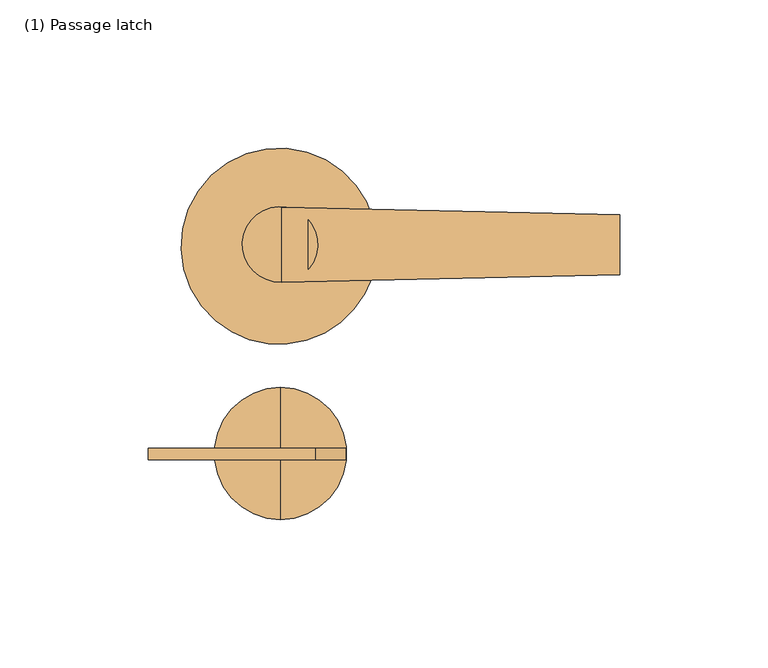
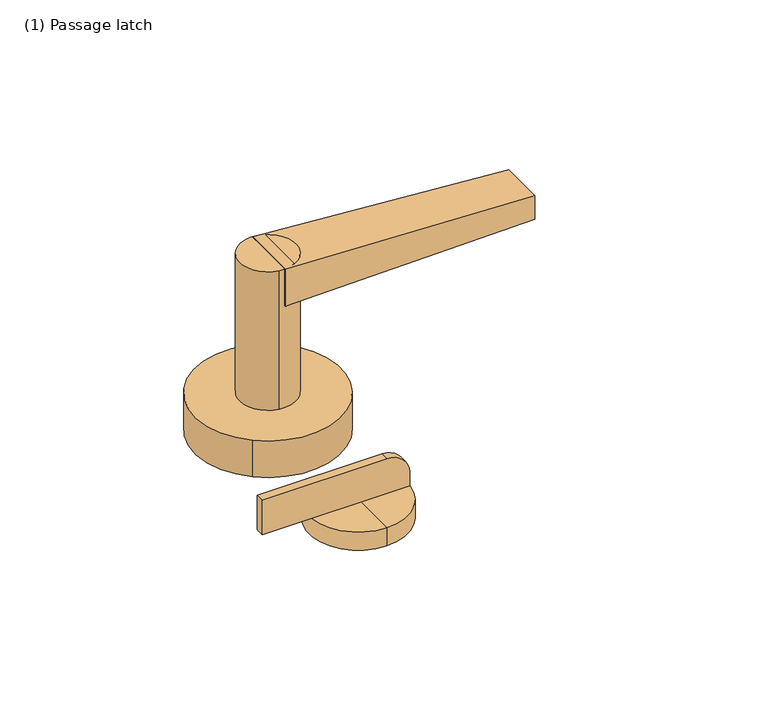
"""IFC4 building model written with IfcOpenShell, lengths in millimetres: door geometry, Door_Handle-Teknion-FHHSL-Schlage L Series(Child) : (1) Passage latch."""

import ifcopenshell
import ifcopenshell.guid

model = None  # the IFC model being written
_history = None  # IfcOwnerHistory: only IFC2X3 demands one
_inside = {}  # id of a spatial element -> (the spatial element, [elements in it])
_under = {}  # id of a project, library or spatial element -> (it, [spatial elements below it])
_declared = {}  # id of a project -> (the project, [libraries it declares])
_typed = {}  # id of a type object -> (the type object, [elements of that type])
_made_of = {}  # id of a material, layer set ... -> (it, [elements and type objects made of it])


def new_model(schema):
    """Start an empty IFC model of exactly this schema.

    Asked for "IFC4X3", IfcOpenShell would pick the latest addendum, in which some entities
    have other attributes; the version numbers below select the first issue.
    IFC2X3 requires an IfcOwnerHistory on every rooted entity: one is made here for all.
    """
    global model, _history
    if schema == "IFC4X3":
        model = ifcopenshell.file(schema_version=(4, 3, 0, 0))
    else:
        model = ifcopenshell.file(schema=schema)
    _inside.clear()
    _under.clear()
    _declared.clear()
    _typed.clear()
    _made_of.clear()
    _history = None
    if model.schema == "IFC2X3":
        org = make("IfcOrganization", Name="unknown")
        user = make(
            "IfcPersonAndOrganization",
            ThePerson=make("IfcPerson", FamilyName="unknown"),
            TheOrganization=org,
        )
        app = make(
            "IfcApplication",
            ApplicationDeveloper=org,
            Version="unknown",
            ApplicationFullName="unknown",
            ApplicationIdentifier="unknown",
        )
        _history = make(
            "IfcOwnerHistory",
            OwningUser=user,
            OwningApplication=app,
            ChangeAction="ADDED",
            CreationDate=0,
        )
    return model


def make(cls, **values):
    """One entity of the class cls with the attributes given. An attribute that is None is left unset."""
    return model.create_entity(
        cls, **{name: value for name, value in values.items() if value is not None}
    )


def rooted(cls, **values):
    """An entity with a GlobalId (a new one), such as an element, a storey or a relation."""
    return make(cls, GlobalId=ifcopenshell.guid.new(), OwnerHistory=_history, **values)


def si_unit(unit_type, name, prefix=None):
    """IfcSIUnit, for example si_unit("LENGTHUNIT", "METRE", prefix="MILLI")."""
    return make("IfcSIUnit", UnitType=unit_type, Prefix=prefix, Name=name)


def assignment(units):
    """IfcUnitAssignment: the units of a project."""
    return None if units is None else make("IfcUnitAssignment", Units=units)


def point(xyz):
    """IfcCartesianPoint."""
    return None if xyz is None else make("IfcCartesianPoint", Coordinates=xyz)


def direction(xyz):
    """IfcDirection."""
    return None if xyz is None else make("IfcDirection", DirectionRatios=xyz)


def frame(location, z_axis=None, x_axis=None):
    """IfcAxis2Placement3D, a coordinate frame: its origin and axes. An axis left out is left unset."""
    return make(
        "IfcAxis2Placement3D",
        Location=point(location),
        Axis=direction(z_axis),
        RefDirection=direction(x_axis),
    )


def frame_2d(location, x_axis=None):
    """IfcAxis2Placement2D, a coordinate frame in the plane: its origin and x axis."""
    return make(
        "IfcAxis2Placement2D", Location=point(location), RefDirection=direction(x_axis)
    )


def origin():
    """The frame at (0, 0, 0) with its axes left unset."""
    return frame((0.0, 0.0, 0.0))


def origin_with_axes():
    """The frame at (0, 0, 0) with the z axis (0, 0, 1) and the x axis (1, 0, 0) written out."""
    return frame((0.0, 0.0, 0.0), z_axis=(0.0, 0.0, 1.0), x_axis=(1.0, 0.0, 0.0))


def place(relative_to, where):
    """IfcLocalPlacement: puts the frame where relative to a parent placement (None: the world)."""
    return make(
        "IfcLocalPlacement", PlacementRelTo=relative_to, RelativePlacement=where
    )


def context(
    kind, dimensions, precision=None, world=None, true_north=None, identifier=None
):
    """IfcGeometricRepresentationContext, for example the 3D "Model" context."""
    return make(
        "IfcGeometricRepresentationContext",
        ContextIdentifier=identifier,
        ContextType=kind,
        CoordinateSpaceDimension=dimensions,
        Precision=precision,
        WorldCoordinateSystem=world,
        TrueNorth=true_north,
    )


def project(units=None, contexts=None):
    """IfcProject with its units and contexts."""
    return rooted(
        "IfcProject",
        Name="project",
        RepresentationContexts=contexts,
        UnitsInContext=assignment(units),
    )


def spatial(cls, under=None, at=None, **own):
    """A site, building, storey or space (cls), placed at a placement, below another one or the project."""
    s = rooted(cls, ObjectPlacement=at, **own)
    if under is not None:
        _under.setdefault(under.id(), (under, []))[1].append(s)
    return s


def polyline(points):
    """IfcPolyline through the points."""
    return make("IfcPolyline", Points=[point(p) for p in points])


def circle_curve(where, radius):
    """IfcCircle in the frame where."""
    return make("IfcCircle", Position=where, Radius=radius)


def trimmed(basis, trim1, trim2, sense, master):
    """IfcTrimmedCurve: the piece of a basis curve between two trims."""
    return make(
        "IfcTrimmedCurve",
        BasisCurve=basis,
        Trim1=trim1,
        Trim2=trim2,
        SenseAgreement=sense,
        MasterRepresentation=master,
    )


def segment(curve, same_sense, transition):
    """IfcCompositeCurveSegment."""
    return make(
        "IfcCompositeCurveSegment",
        Transition=transition,
        SameSense=same_sense,
        ParentCurve=curve,
    )


def composite_curve(segments, self_intersect=None):
    """IfcCompositeCurve: segments joined end to end."""
    return make("IfcCompositeCurve", Segments=segments, SelfIntersect=self_intersect)


def outline(outer, holes=None, kind="AREA"):
    """IfcArbitraryClosedProfileDef: a profile drawn as a closed curve; with holes, ...WithVoids."""
    if holes is None:
        return make("IfcArbitraryClosedProfileDef", ProfileType=kind, OuterCurve=outer)
    return make(
        "IfcArbitraryProfileDefWithVoids",
        ProfileType=kind,
        OuterCurve=outer,
        InnerCurves=holes,
    )


def extrude(swept, where, along, depth):
    """IfcExtrudedAreaSolid: the profile swept, set in the frame where, extruded along a direction by depth."""
    return make(
        "IfcExtrudedAreaSolid",
        SweptArea=swept,
        Position=where,
        ExtrudedDirection=direction(along),
        Depth=depth,
    )


def shape(context_of_items, identifier, shape_type, items):
    """IfcShapeRepresentation: the items that make up one representation, for example the "Body"."""
    return make(
        "IfcShapeRepresentation",
        ContextOfItems=context_of_items,
        RepresentationIdentifier=identifier,
        RepresentationType=shape_type,
        Items=items,
    )


def source(mapping_origin, context_of_items, identifier, shape_type, items):
    """IfcRepresentationMap: a shape defined once, which mapped items show again and again."""
    return make(
        "IfcRepresentationMap",
        MappingOrigin=mapping_origin,
        MappedRepresentation=shape(context_of_items, identifier, shape_type, items),
    )


def transform(
    local_origin,
    x_axis=None,
    y_axis=None,
    z_axis=None,
    scale=None,
    scale2=None,
    scale3=None,
    uniform=True,
):
    """IfcCartesianTransformationOperator3D, or its non-uniform kind. x_axis, y_axis, z_axis: its Axis1, 2, 3."""
    if uniform:
        return make(
            "IfcCartesianTransformationOperator3D",
            Axis1=direction(x_axis),
            Axis2=direction(y_axis),
            LocalOrigin=point(local_origin),
            Scale=scale,
            Axis3=direction(z_axis),
        )
    return make(
        "IfcCartesianTransformationOperator3DnonUniform",
        Axis1=direction(x_axis),
        Axis2=direction(y_axis),
        LocalOrigin=point(local_origin),
        Scale=scale,
        Axis3=direction(z_axis),
        Scale2=scale2,
        Scale3=scale3,
    )


def mapped(mapping_source, mapping_target):
    """IfcMappedItem: shows the shape of a source again, moved by a transform."""
    return make(
        "IfcMappedItem", MappingSource=mapping_source, MappingTarget=mapping_target
    )


def made_of(thing, what):
    """Note that an element or type object is made of a material, layer set ...; save() writes the relation."""
    if what is not None:
        _made_of.setdefault(what.id(), (what, []))[1].append(thing)
    return thing


def element(
    cls,
    number,
    at=None,
    inside=None,
    cuts=None,
    type_object=None,
    material=None,
    context=None,
    identifier="Body",
    shape_type=None,
    held_by="IfcProductDefinitionShape",
    body=None,
    shapes=None,
    **own,
):
    """One element of the class cls, such as IfcWall. Its Tag is "e" and its number.

    at: its placement. inside: the storey or other place that contains it. cuts: it is an
    opening in that element (IfcRelVoidsElement). A single representation is given by context,
    identifier, shape_type and body (its items); several are given by shapes. held_by: the class
    of the entity that holds the representations. save() writes the other relations.
    """
    e = rooted(cls, Tag="e%d" % number, ObjectPlacement=at, **own)
    if body is not None:
        shapes = [shape(context, identifier, shape_type, body)]
    if shapes is not None:
        e.Representation = make(held_by, Representations=shapes)
    if inside is not None:
        _inside.setdefault(inside.id(), (inside, []))[1].append(e)
    if cuts is not None:
        rooted(
            "IfcRelVoidsElement", RelatingBuildingElement=cuts, RelatedOpeningElement=e
        )
    if type_object is not None:
        _typed.setdefault(type_object.id(), (type_object, []))[1].append(e)
    return made_of(e, material)


def aggregate(whole, parts):
    """IfcRelAggregates: a whole, such as a stair, and the parts it consists of."""
    return rooted("IfcRelAggregates", RelatingObject=whole, RelatedObjects=parts)


def save(model, path):
    """Write the relations noted so far, then the file.

    IfcRelAggregates (storeys below a building ...), IfcRelContainedInSpatialStructure (elements
    in a storey), IfcRelDefinesByType, IfcRelAssociatesMaterial and IfcRelDeclares: one each for
    every whole, place, type object, material and project.
    """
    for whole, parts in _under.values():
        aggregate(whole, parts)
    for where, things in _inside.values():
        rooted(
            "IfcRelContainedInSpatialStructure",
            RelatedElements=things,
            RelatingStructure=where,
        )
    for kind, things in _typed.values():
        rooted("IfcRelDefinesByType", RelatedObjects=things, RelatingType=kind)
    for what, things in _made_of.values():
        rooted("IfcRelAssociatesMaterial", RelatedObjects=things, RelatingMaterial=what)
    for by, libraries in _declared.values():
        rooted("IfcRelDeclares", RelatingContext=by, RelatedDefinitions=libraries)
    model.write(path)


def plane_surface(at):
    """IfcPlane: the flat surface through the origin of the frame at, square to its z axis."""
    return make("IfcPlane", Position=at)


def cylinder_surface(at, radius):
    """IfcCylindricalSurface: all points at the distance radius from the z axis of the frame at."""
    return make("IfcCylindricalSurface", Position=at, Radius=radius)


def spline_surface(u_degree, v_degree, points, u_multiplicities, v_multiplicities, u_knots, v_knots, weights=None):
    """IfcBSplineSurfaceWithKnots; with weights, IfcRationalBSplineSurfaceWithKnots. points: one row for each step in u."""
    own = dict(
        UDegree=u_degree,
        VDegree=v_degree,
        ControlPointsList=[[point(p) for p in row] for row in points],
        SurfaceForm="UNSPECIFIED",
        UClosed=False,
        VClosed=False,
        SelfIntersect=False,
        UMultiplicities=u_multiplicities,
        VMultiplicities=v_multiplicities,
        UKnots=u_knots,
        VKnots=v_knots,
        KnotSpec="UNSPECIFIED",
    )
    if weights is None:
        return make("IfcBSplineSurfaceWithKnots", **own)
    return make("IfcRationalBSplineSurfaceWithKnots", WeightsData=weights, **own)


def advanced_brep(points, edges, surfaces, faces):
    """IfcAdvancedBrep: a solid bounded by faces that lie on surfaces and meet in shared edges.

    An edge is (start, end): straight between two places in points (the first is 0);
    or (start, end, curve); or (start, end, curve, False) where it runs against its curve.
    A face is (place in surfaces, loops), or (place, loops, False) where it looks against
    its surface's normal. A loop lists edges by number (the first is 1), with a minus sign
    where the edge is run from its end to its start. The first loop is the outer one.
    """
    corners = [point(p) for p in points]
    vertices = [make("IfcVertexPoint", VertexGeometry=c) for c in corners]
    made = []
    for start, end, *more in edges:
        made.append(
            make(
                "IfcEdgeCurve",
                EdgeStart=vertices[start],
                EdgeEnd=vertices[end],
                EdgeGeometry=more[0] if more else make("IfcPolyline", Points=[corners[start], corners[end]]),
                SameSense=more[1] if len(more) > 1 else True,
            )
        )
    hull = []
    for where, loops, *sense in faces:
        bounds = []
        for j, loop in enumerate(loops):
            ring = [make("IfcOrientedEdge", EdgeElement=made[abs(k) - 1], Orientation=k > 0) for k in loop]
            bounds.append(
                make(
                    "IfcFaceOuterBound" if j == 0 else "IfcFaceBound",
                    Bound=make("IfcEdgeLoop", EdgeList=ring),
                    Orientation=True,
                )
            )
        hull.append(make("IfcAdvancedFace", Bounds=bounds, FaceSurface=surfaces[where], SameSense=sense[0] if sense else True))
    return make("IfcAdvancedBrep", Outer=make("IfcClosedShell", CfsFaces=hull))


def door_1_passage_latch_fcdd1c10(model_context):
    return source(origin(), model_context, "Body", "SolidModel", [
        advanced_brep(
        [(113.0826159, 9.8661661, 77.089), (113.0826159, -10.4783486, 77.089), (113.0826159, -10.4783486, 65.659), (113.0826159, 9.8661661, 65.659), (-0.79375, 12.3783123, 83.439), (-0.79375, 12.378509, 65.659), (-0.79375, -13.0089229, 65.659), (-0.79375, -13.0118705, 83.439)],
        [
            (0, 1),
            (1, 2),
            (2, 3),
            (3, 0),
            (4, 5),
            (5, 6),
            (6, 7),
            (7, 4),
            (4, 0),
            (3, 5),
            (2, 6),
            (1, 7),
        ],
        [
            plane_surface(frame((113.0826159, -0.3060912, 71.374), z_axis=(1.0, 0.0, 0.0), x_axis=(0.0, 1.0, 0.0))),
            plane_surface(frame((-0.79375, -0.315993, 74.549), z_axis=(-1.0000000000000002, 0.0, 0.0), x_axis=(0.0, 1.1064247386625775e-05, -0.9999999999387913))),
            spline_surface(1, 1, [[(-0.79375, 12.3783123, 83.439), (-0.79375, 12.378509, 65.659)], [(113.0826159, 9.8661661, 77.089), (113.0826159, 9.8661661, 65.659)]], [2, 2], [2, 2], [0.0, 1.0], [0.0, 1.0]),
            plane_surface(frame((-0.79375, -0.315207, 65.659), z_axis=(0.0, 0.0, -1.0), x_axis=(0.0, -1.0, 0.0))),
            spline_surface(1, 1, [[(-0.79375, -13.0089229, 65.659), (-0.79375, -13.0118705, 83.439)], [(113.0826159, -10.4783486, 65.659), (113.0826159, -10.4783486, 77.089)]], [2, 2], [2, 2], [0.0, 1.0], [0.0, 1.0]),
            plane_surface(frame((-0.79375, -0.3167791, 83.439), z_axis=(0.05567573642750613, 0.0, 0.9984489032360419), x_axis=(0.0, 1.0, 0.0))),
        ],
        [
            (0, [[1, 2, 3, 4]]),
            (1, [[5, 6, 7, 8]]),
            (2, [[9, -4, 10, -5]]),
            (3, [[-10, -3, 11, -6]]),
            (4, [[-11, -2, 12, -7]]),
            (5, [[-12, -1, -9, -8]]),
        ],
    ),
        extrude(outline(composite_curve([segment(trimmed(circle_curve(frame_2d((-1.3064074, -0.1984375)), 12.7), [point((-3.427265, -12.7200973))], [point((0.8144502, 12.3232223))], False, "CARTESIAN"), True, "CONTINUOUS"), segment(trimmed(circle_curve(frame_2d((-1.3064074, -0.1984375)), 12.7), [point((0.8144502, 12.3232223))], [point((-3.427265, -12.7200973))], False, "CARTESIAN"), True, "CONTINUOUS")], self_intersect=False)), frame((0.0, 0.0, 17.399), z_axis=(0.0, 0.0, 1.0), x_axis=(1.0, 0.0, 0.0)), (0.0, 0.0, 1.0), 66.04),
        extrude(outline(composite_curve([segment(trimmed(circle_curve(frame_2d((-1.6178614, -0.7745191)), 33.02), [point((-22.9508261, -25.9781898))], [point((19.7151032, 24.4291516))], False, "CARTESIAN"), True, "CONTINUOUS"), segment(trimmed(circle_curve(frame_2d((-1.6178614, -0.7745191)), 33.02), [point((19.7151032, 24.4291516))], [point((-22.9508261, -25.9781898))], False, "CARTESIAN"), True, "CONTINUOUS")], self_intersect=False)), origin_with_axes(), (0.0, 0.0, 1.0), 17.399),
        extrude(outline(composite_curve([segment(polyline([(25.146, 10.6467926), (25.146, -45.6833325), (8.636, -45.6833325), (8.636, 20.8690339), (15.3233, 20.8690339)]), True, "CONTINUOUS"), segment(trimmed(circle_curve(frame_2d((14.9632029, 10.6925033)), 10.1828997), [point((15.3233, 20.8690339))], [point((25.146, 10.6467926))], False, "CARTESIAN"), True, "CONTINUOUS")], self_intersect=False)), frame((0.0, -72.6889197, 0.0), z_axis=(0.0, 1.0, 0.0), x_axis=(0.0, 0.0, 1.0)), (0.0, 0.0, 1.0), 3.81),
        advanced_brep(
        [(-1.190625, -92.8715961, 8.636), (-1.190625, -70.6303498, 8.636), (-1.190625, -48.3891034, 8.636), (-1.190625, -92.8715961, 0.0), (-1.190625, -48.3891034, 0.0), (-1.190625, -70.6303498, 0.0)],
        [
            (0, 1),
            (1, 2),
            (2, 0, circle_curve(frame((-1.190625, -70.6303498, 8.636), z_axis=(0.0, 0.0, 1.0), x_axis=(0.0, 1.0, 0.0)), 22.2412463)),
            (0, 2, circle_curve(frame((-1.190625, -70.6303498, 8.636), z_axis=(0.0, 0.0, 1.0), x_axis=(0.0, 1.0, 0.0)), 22.2412463)),
            (3, 0),
            (2, 4),
            (4, 3, circle_curve(frame((-1.190625, -70.6303498, 0.0), z_axis=(0.0, 0.0, 1.0), x_axis=(0.0, 1.0, 0.0)), 22.2412463)),
            (3, 4, circle_curve(frame((-1.190625, -70.6303498, 0.0), z_axis=(0.0, 0.0, 1.0), x_axis=(0.0, 1.0, 0.0)), 22.2412463)),
            (5, 3),
            (4, 5),
        ],
        [
            plane_surface(frame((-1.190625, -70.6303498, 8.636), z_axis=(0.0, 0.0, 1.0), x_axis=(0.0, 1.0, 0.0))),
            cylinder_surface(frame((-1.190625, -70.6303498, 76.2), z_axis=(0.0, 0.0, -1.0), x_axis=(0.0, 1.0, 0.0)), 22.2412463),
            plane_surface(frame((-1.190625, -70.6303498, 0.0), z_axis=(0.0, 0.0, -1.0), x_axis=(0.0, 1.0, 0.0))),
        ],
        [
            (0, [[1, 2, 3]]),
            (0, [[-2, -1, 4]]),
            (1, [[5, -3, 6, 7]]),
            (1, [[-6, -4, -5, 8]]),
            (2, [[9, -7, 10]]),
            (2, [[-10, -8, -9]]),
        ],
    ),
    ])


if __name__ == "__main__":
    model = new_model("IFC4")
    model_context = context("Model", 3, world=origin())
    ifc_project = project(units=[si_unit("LENGTHUNIT", "METRE", prefix="MILLI")], contexts=[model_context])
    site = spatial("IfcSite", under=ifc_project)
    building = spatial("IfcBuilding", under=site)
    placement = place(None, origin())
    door_1_passage_latch_shape = door_1_passage_latch_fcdd1c10(model_context)
    element("IfcDoor", 1, ObjectType="Door_Handle-Teknion-FHHSL-Schlage L Series(Child) : (1) Passage latch", at=placement, inside=building, context=model_context, shape_type="MappedRepresentation", body=[
        mapped(door_1_passage_latch_shape, transform((0.0, 0.0, 0.0), x_axis=(1.0, 0.0, 0.0), y_axis=(0.0, 1.0, 0.0), z_axis=(0.0, 0.0, 1.0))),
    ])
    save(model, "model.ifc")
